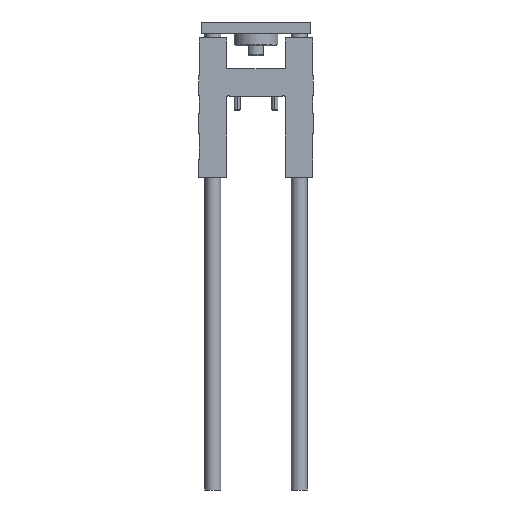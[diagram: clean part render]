
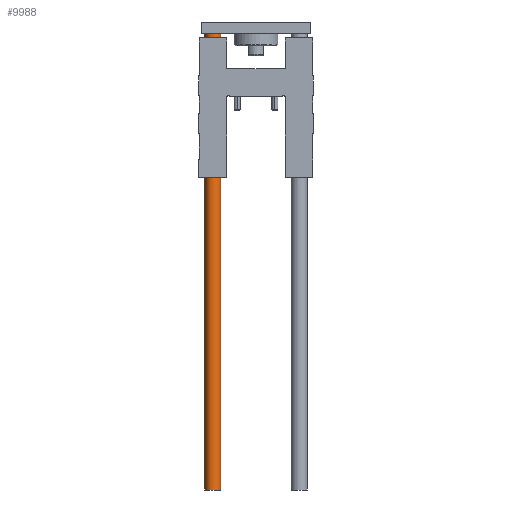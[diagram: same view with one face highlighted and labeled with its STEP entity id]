
A CAD part, front view. The second image highlights one B-rep face of the part: STEP entity #9988.
In plain terms, the highlighted cylindrical face has radius 8 mm (diameter 16 mm), a partial arc.
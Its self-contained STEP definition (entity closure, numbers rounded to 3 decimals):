
#17 = AXIS2_PLACEMENT_3D ( 'NONE', #3677, #2760, #4462 ) ;
#413 = ORIENTED_EDGE ( 'NONE', *, *, #8806, .T. ) ;
#462 = CYLINDRICAL_SURFACE ( 'NONE', #17, 8. ) ;
#868 = EDGE_CURVE ( 'NONE', #2157, #6544, #6502, .T. ) ;
#906 = VECTOR ( 'NONE', #4508, 1000. ) ;
#1246 = ORIENTED_EDGE ( 'NONE', *, *, #868, .F. ) ;
#1269 = AXIS2_PLACEMENT_3D ( 'NONE', #6728, #5256, #4473 ) ;
#1373 = CARTESIAN_POINT ( 'NONE',  ( -51.5, 0., -395. ) ) ;
#1966 = LINE ( 'NONE', #5140, #906 ) ;
#2005 = AXIS2_PLACEMENT_3D ( 'NONE', #2680, #5848, #3300 ) ;
#2157 = VERTEX_POINT ( 'NONE', #9000 ) ;
#2680 = CARTESIAN_POINT ( 'NONE',  ( -43.5, 0., 63. ) ) ;
#2760 = DIRECTION ( 'NONE',  ( 0., 0., -1. ) ) ;
#2852 = LINE ( 'NONE', #8978, #8692 ) ;
#2970 = VERTEX_POINT ( 'NONE', #9370 ) ;
#3222 = EDGE_CURVE ( 'NONE', #4905, #2970, #3434, .T. ) ;
#3300 = DIRECTION ( 'NONE',  ( 1., 0., 0. ) ) ;
#3434 = CIRCLE ( 'NONE', #1269, 8. ) ;
#3677 = CARTESIAN_POINT ( 'NONE',  ( -43.5, 0., -395. ) ) ;
#4462 = DIRECTION ( 'NONE',  ( 1., 0., 0. ) ) ;
#4473 = DIRECTION ( 'NONE',  ( 1., 0., 0. ) ) ;
#4493 = EDGE_CURVE ( 'NONE', #6544, #2970, #1966, .T. ) ;
#4508 = DIRECTION ( 'NONE',  ( 0., 0., -1. ) ) ;
#4905 = VERTEX_POINT ( 'NONE', #1373 ) ;
#5140 = CARTESIAN_POINT ( 'NONE',  ( -35.5, 0., -395. ) ) ;
#5256 = DIRECTION ( 'NONE',  ( 0., 0., 1. ) ) ;
#5848 = DIRECTION ( 'NONE',  ( 0., 0., 1. ) ) ;
#6502 = CIRCLE ( 'NONE', #2005, 8. ) ;
#6544 = VERTEX_POINT ( 'NONE', #6628 ) ;
#6606 = DIRECTION ( 'NONE',  ( 0., 0., -1. ) ) ;
#6628 = CARTESIAN_POINT ( 'NONE',  ( -35.5, 0., 63. ) ) ;
#6728 = CARTESIAN_POINT ( 'NONE',  ( -43.5, 0., -395. ) ) ;
#7372 = ORIENTED_EDGE ( 'NONE', *, *, #4493, .F. ) ;
#8675 = EDGE_LOOP ( 'NONE', ( #1246, #413, #9380, #7372 ) ) ;
#8692 = VECTOR ( 'NONE', #6606, 1000. ) ;
#8806 = EDGE_CURVE ( 'NONE', #2157, #4905, #2852, .T. ) ;
#8978 = CARTESIAN_POINT ( 'NONE',  ( -51.5, 0., -395. ) ) ;
#9000 = CARTESIAN_POINT ( 'NONE',  ( -51.5, 0., 63. ) ) ;
#9370 = CARTESIAN_POINT ( 'NONE',  ( -35.5, 0., -395. ) ) ;
#9380 = ORIENTED_EDGE ( 'NONE', *, *, #3222, .T. ) ;
#9824 = FACE_OUTER_BOUND ( 'NONE', #8675, .T. ) ;
#9988 = ADVANCED_FACE ( 'NONE', ( #9824 ), #462, .T. ) ;
